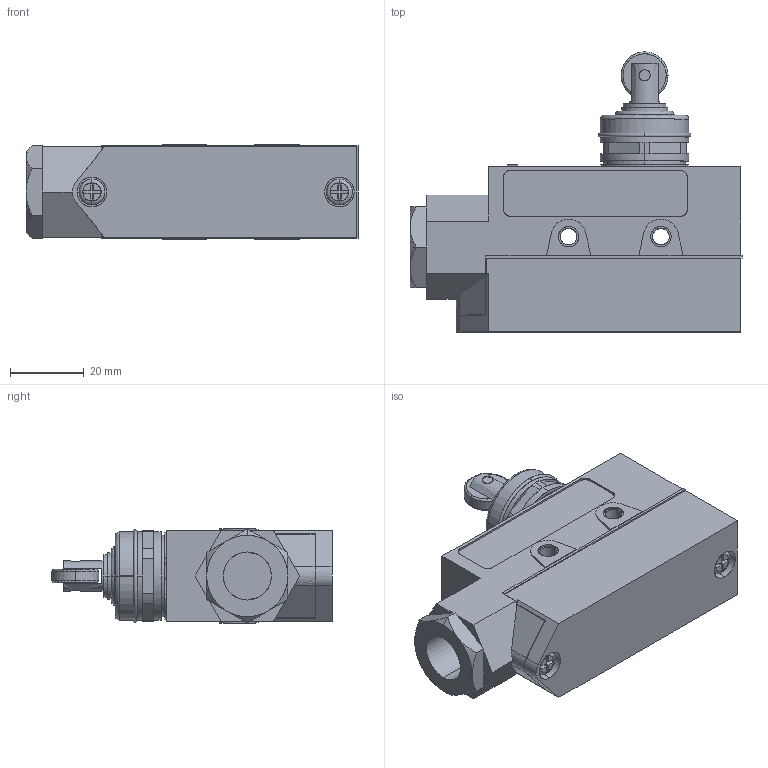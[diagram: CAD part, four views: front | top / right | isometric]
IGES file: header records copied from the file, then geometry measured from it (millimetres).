
Start section: SolidWorks IGES file using analytic representation for surfaces
Global section: file name: D:\X - Arquivos\PROEX\Empresas\P11 - METALTEX\01 - Produtos\IGES\6ª remessa\5ª etapa\TZ-6102.IGS; native system: SolidWorks 2012; preprocessor: SolidWorks 2012; author: Usuario; date: 190327.095905; units: millimetre
Bounding box: 89.9 x 75.85 x 25.5 mm (x, y, z)
Surface area: 18533.2 mm2 (no closed solid volume)
Topology: 0 solids, 0 shells, 351 faces, 3474 edges, 3474 vertices
Faces by surface type: bspline 269, revolution 82
